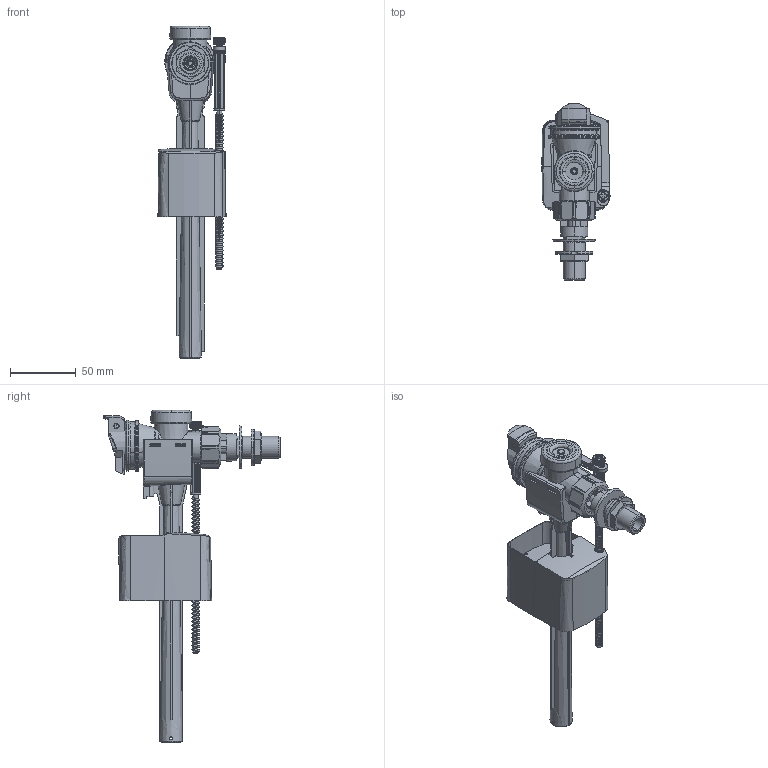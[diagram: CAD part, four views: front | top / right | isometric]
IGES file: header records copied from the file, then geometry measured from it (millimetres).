
Start section: Data from XPlus IGES,  Spatial Corp. Copyright (c) 1999-2004
Global section: file name: 136724.igs; native system:  By Spatial Corp.; preprocessor: XPlus ACIS/IGES 3.0; author: Noname; organization: Noname; date: 20201215.144627; units: millimetre
Bounding box: 51.6 x 133.5 x 251.58 mm (x, y, z)
Surface area: 123498.1 mm2 (no closed solid volume)
Topology: 0 solids, 0 shells, 2471 faces, 13864 edges, 13864 vertices
Faces by surface type: revolution 1585, extrusion 825, bspline 61
